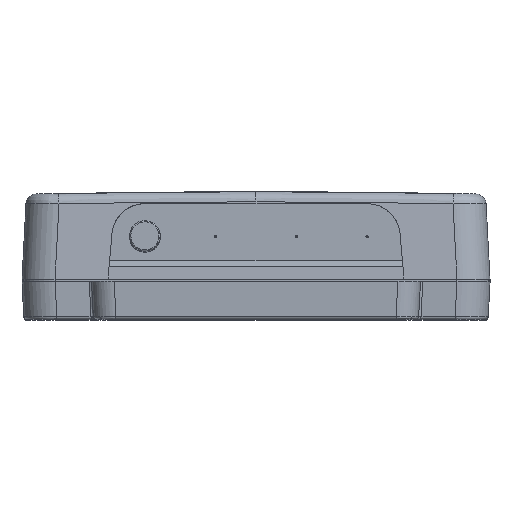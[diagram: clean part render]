
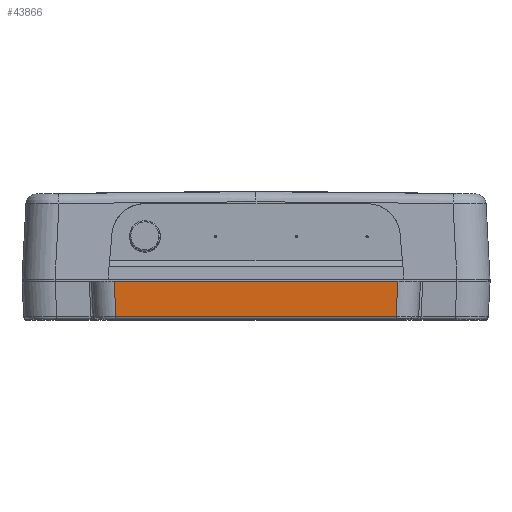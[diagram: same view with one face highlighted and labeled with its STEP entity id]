
A CAD part, top view. The second image highlights one B-rep face of the part: STEP entity #43866.
In plain terms, the highlighted planar face has unit normal (0, -0.052, 0.999).
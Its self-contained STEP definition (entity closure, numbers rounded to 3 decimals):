
#3538 = CARTESIAN_POINT ( 'NONE',  ( 60.013, -10., 140.186 ) ) ;
#9966 = LINE ( 'NONE', #111120, #50129 ) ;
#18850 = AXIS2_PLACEMENT_3D ( 'NONE', #122463, #73193, #111432 ) ;
#22230 = DIRECTION ( 'NONE',  ( -1., 0., 0. ) ) ;
#23158 = VERTEX_POINT ( 'NONE', #102864 ) ;
#24665 = CARTESIAN_POINT ( 'NONE',  ( -59.234, -24.863, 139.407 ) ) ;
#26117 = ORIENTED_EDGE ( 'NONE', *, *, #26625, .T. ) ;
#26625 = EDGE_CURVE ( 'NONE', #23158, #67251, #77695, .T. ) ;
#29488 = EDGE_LOOP ( 'NONE', ( #39964, #26117, #106764, #121228 ) ) ;
#32739 = DIRECTION ( 'NONE',  ( 1., 0., 0. ) ) ;
#39964 = ORIENTED_EDGE ( 'NONE', *, *, #55251, .T. ) ;
#43866 = ADVANCED_FACE ( 'NONE', ( #74479 ), #71902, .T. ) ;
#49767 = CARTESIAN_POINT ( 'NONE',  ( 59.656, -16.818, 139.829 ) ) ;
#50129 = VECTOR ( 'NONE', #22230, 1000. ) ;
#54138 = CARTESIAN_POINT ( 'NONE',  ( 59.175, -24.863, 139.407 ) ) ;
#55251 = EDGE_CURVE ( 'NONE', #93768, #23158, #104081, .T. ) ;
#61001 = CARTESIAN_POINT ( 'NONE',  ( -60.013, -10., 140.186 ) ) ;
#67251 = VERTEX_POINT ( 'NONE', #3538 ) ;
#67583 = LINE ( 'NONE', #86424, #95246 ) ;
#71902 = PLANE ( 'NONE',  #18850 ) ;
#73193 = DIRECTION ( 'NONE',  ( 0., -0.052, 0.999 ) ) ;
#74479 = FACE_OUTER_BOUND ( 'NONE', #29488, .T. ) ;
#76688 = DIRECTION ( 'NONE',  ( 0.052, -0.997, -0.052 ) ) ;
#77695 = LINE ( 'NONE', #49767, #102727 ) ;
#80485 = VECTOR ( 'NONE', #32739, 1000. ) ;
#86424 = CARTESIAN_POINT ( 'NONE',  ( -60.043, -9.438, 140.216 ) ) ;
#88158 = VERTEX_POINT ( 'NONE', #61001 ) ;
#89176 = EDGE_CURVE ( 'NONE', #88158, #93768, #67583, .T. ) ;
#93238 = EDGE_CURVE ( 'NONE', #67251, #88158, #9966, .T. ) ;
#93768 = VERTEX_POINT ( 'NONE', #24665 ) ;
#95246 = VECTOR ( 'NONE', #76688, 1000. ) ;
#99043 = DIRECTION ( 'NONE',  ( 0.052, 0.997, 0.052 ) ) ;
#102727 = VECTOR ( 'NONE', #99043, 1000. ) ;
#102864 = CARTESIAN_POINT ( 'NONE',  ( 59.234, -24.863, 139.407 ) ) ;
#104081 = LINE ( 'NONE', #54138, #80485 ) ;
#106764 = ORIENTED_EDGE ( 'NONE', *, *, #93238, .T. ) ;
#111120 = CARTESIAN_POINT ( 'NONE',  ( -70.794, -10., 140.186 ) ) ;
#111432 = DIRECTION ( 'NONE',  ( 0., -0.999, -0.052 ) ) ;
#121228 = ORIENTED_EDGE ( 'NONE', *, *, #89176, .T. ) ;
#122463 = CARTESIAN_POINT ( 'NONE',  ( -70.794, -10., 140.186 ) ) ;
